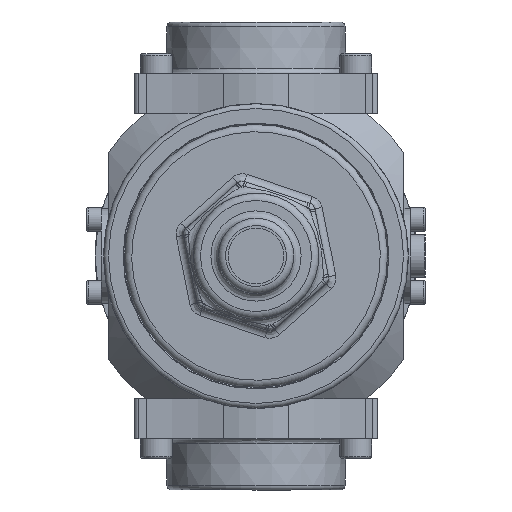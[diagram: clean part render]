
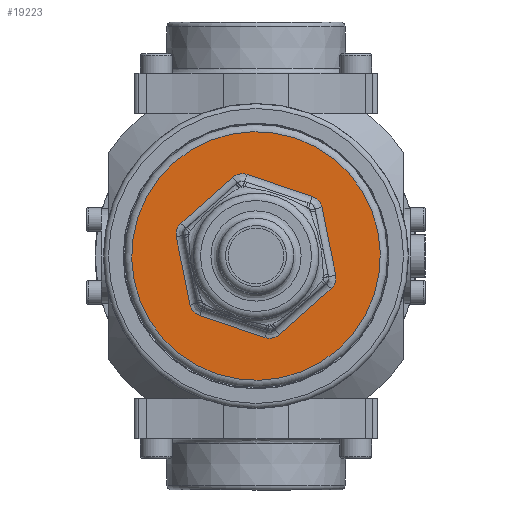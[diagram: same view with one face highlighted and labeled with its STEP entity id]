
A CAD part, front view. The second image highlights one B-rep face of the part: STEP entity #19223.
In plain terms, the highlighted planar face has unit normal (0, -1, 0).
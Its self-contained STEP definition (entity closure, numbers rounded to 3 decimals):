
#18704=CARTESIAN_POINT('',(-30.5,50.,-14.145));
#18705=VERTEX_POINT('',#18704);
#18714=CARTESIAN_POINT('',(-30.5,50.,14.145));
#18715=VERTEX_POINT('',#18714);
#18723=CARTESIAN_POINT('',(-30.5,50.,14.145));
#18724=DIRECTION('',(0.0,0.0,-1.0));
#18725=VECTOR('',#18724,28.29);
#18726=LINE('',#18723,#18725);
#18727=EDGE_CURVE('',#18715,#18705,#18726,.T.);
#18755=CARTESIAN_POINT('',(-27.5,50.,-19.341));
#18756=VERTEX_POINT('',#18755);
#18766=CARTESIAN_POINT('',(-24.5,50.,-14.145));
#18767=DIRECTION('',(0.,-1.0,0.));
#18768=DIRECTION('',(-0.866,0.,-0.5));
#18769=AXIS2_PLACEMENT_3D('',#18766,#18767,#18768);
#18770=CIRCLE('',#18769,6.);
#18771=EDGE_CURVE('',#18705,#18756,#18770,.T.);
#18799=CARTESIAN_POINT('',(-27.5,50.,19.341));
#18800=VERTEX_POINT('',#18799);
#18808=CARTESIAN_POINT('',(-24.5,50.,14.145));
#18809=DIRECTION('',(0.,-1.,0.));
#18810=DIRECTION('',(-0.866,0.,0.5));
#18811=AXIS2_PLACEMENT_3D('',#18808,#18809,#18810);
#18812=CIRCLE('',#18811,6.);
#18813=EDGE_CURVE('',#18800,#18715,#18812,.T.);
#18825=CARTESIAN_POINT('',(-3.,50.,-33.486));
#18826=VERTEX_POINT('',#18825);
#18843=CARTESIAN_POINT('',(-27.5,50.,-19.341));
#18844=DIRECTION('',(0.866,0.0,-0.5));
#18845=VECTOR('',#18844,28.29);
#18846=LINE('',#18843,#18845);
#18847=EDGE_CURVE('',#18756,#18826,#18846,.T.);
#18857=CARTESIAN_POINT('',(-3.,50.,33.486));
#18858=VERTEX_POINT('',#18857);
#18866=CARTESIAN_POINT('',(-3.0,50.,33.486));
#18867=DIRECTION('',(-0.866,0.0,-0.5));
#18868=VECTOR('',#18867,28.29);
#18869=LINE('',#18866,#18868);
#18870=EDGE_CURVE('',#18858,#18800,#18869,.T.);
#18910=CARTESIAN_POINT('',(3.,50.,-33.486));
#18911=VERTEX_POINT('',#18910);
#18929=CARTESIAN_POINT('',(0.,50.,-28.29));
#18930=DIRECTION('',(0.0,-1.0,0.0));
#18931=DIRECTION('',(0.0,0.0,-1.0));
#18932=AXIS2_PLACEMENT_3D('',#18929,#18930,#18931);
#18933=CIRCLE('',#18932,6.);
#18934=EDGE_CURVE('',#18826,#18911,#18933,.T.);
#18972=CARTESIAN_POINT('',(3.,50.,33.486));
#18973=VERTEX_POINT('',#18972);
#18981=CARTESIAN_POINT('',(0.,50.,28.29));
#18982=DIRECTION('',(0.0,-1.0,0.0));
#18983=DIRECTION('',(0.0,0.0,1.0));
#18984=AXIS2_PLACEMENT_3D('',#18981,#18982,#18983);
#18985=CIRCLE('',#18984,6.);
#18986=EDGE_CURVE('',#18973,#18858,#18985,.T.);
#18998=CARTESIAN_POINT('',(27.5,50.,-19.341));
#18999=VERTEX_POINT('',#18998);
#19016=CARTESIAN_POINT('',(3.,50.,-33.486));
#19017=DIRECTION('',(0.866,0.0,0.5));
#19018=VECTOR('',#19017,28.29);
#19019=LINE('',#19016,#19018);
#19020=EDGE_CURVE('',#18911,#18999,#19019,.T.);
#19030=CARTESIAN_POINT('',(27.5,50.,19.341));
#19031=VERTEX_POINT('',#19030);
#19039=CARTESIAN_POINT('',(27.5,50.,19.341));
#19040=DIRECTION('',(-0.866,0.0,0.5));
#19041=VECTOR('',#19040,28.29);
#19042=LINE('',#19039,#19041);
#19043=EDGE_CURVE('',#19031,#18973,#19042,.T.);
#19073=CARTESIAN_POINT('',(30.5,50.,-14.145));
#19074=VERTEX_POINT('',#19073);
#19092=CARTESIAN_POINT('',(24.5,50.,-14.145));
#19093=DIRECTION('',(0.,-1.0,0.));
#19094=DIRECTION('',(0.866,0.,-0.5));
#19095=AXIS2_PLACEMENT_3D('',#19092,#19093,#19094);
#19096=CIRCLE('',#19095,6.);
#19097=EDGE_CURVE('',#18999,#19074,#19096,.T.);
#19127=CARTESIAN_POINT('',(30.5,50.,14.145));
#19128=VERTEX_POINT('',#19127);
#19136=CARTESIAN_POINT('',(24.5,50.,14.145));
#19137=DIRECTION('',(0.,-1.,0.));
#19138=DIRECTION('',(0.866,0.,0.5));
#19139=AXIS2_PLACEMENT_3D('',#19136,#19137,#19138);
#19140=CIRCLE('',#19139,6.);
#19141=EDGE_CURVE('',#19128,#19031,#19140,.T.);
#19160=CARTESIAN_POINT('',(30.5,50.,-14.145));
#19161=DIRECTION('',(0.0,0.0,1.0));
#19162=VECTOR('',#19161,28.29);
#19163=LINE('',#19160,#19162);
#19164=EDGE_CURVE('',#19074,#19128,#19163,.T.);
#19193=CARTESIAN_POINT('',(-39.875,50.,0.));
#19194=DIRECTION('',(0.0,-1.0,0.0));
#19195=DIRECTION('',(0.0,0.0,-1.0));
#19196=AXIS2_PLACEMENT_3D('',#19193,#19194,#19195);
#19197=PLANE('',#19196);
#19198=CARTESIAN_POINT('',(-51.,50.,0.));
#19199=VERTEX_POINT('',#19198);
#19200=CARTESIAN_POINT('',(0.,50.,0.0));
#19201=DIRECTION('',(0.0,1.0,0.0));
#19202=DIRECTION('',(1.0,0.0,0.0));
#19203=AXIS2_PLACEMENT_3D('',#19200,#19201,#19202);
#19204=CIRCLE('',#19203,51.);
#19205=EDGE_CURVE('',#19199,#19199,#19204,.T.);
#19206=ORIENTED_EDGE('',*,*,#19205,.F.);
#19207=EDGE_LOOP('',(#19206));
#19208=FACE_OUTER_BOUND('',#19207,.T.);
#19209=ORIENTED_EDGE('',*,*,#18727,.F.);
#19210=ORIENTED_EDGE('',*,*,#18813,.F.);
#19211=ORIENTED_EDGE('',*,*,#18870,.F.);
#19212=ORIENTED_EDGE('',*,*,#18986,.F.);
#19213=ORIENTED_EDGE('',*,*,#19043,.F.);
#19214=ORIENTED_EDGE('',*,*,#19141,.F.);
#19215=ORIENTED_EDGE('',*,*,#19164,.F.);
#19216=ORIENTED_EDGE('',*,*,#19097,.F.);
#19217=ORIENTED_EDGE('',*,*,#19020,.F.);
#19218=ORIENTED_EDGE('',*,*,#18934,.F.);
#19219=ORIENTED_EDGE('',*,*,#18847,.F.);
#19220=ORIENTED_EDGE('',*,*,#18771,.F.);
#19221=EDGE_LOOP('',(#19209,#19210,#19211,#19212,#19213,#19214,#19215,#19216,#19217,#19218,#19219,#19220));
#19222=FACE_BOUND('',#19221,.T.);
#19223=ADVANCED_FACE('',(#19208,#19222),#19197,.T.);
